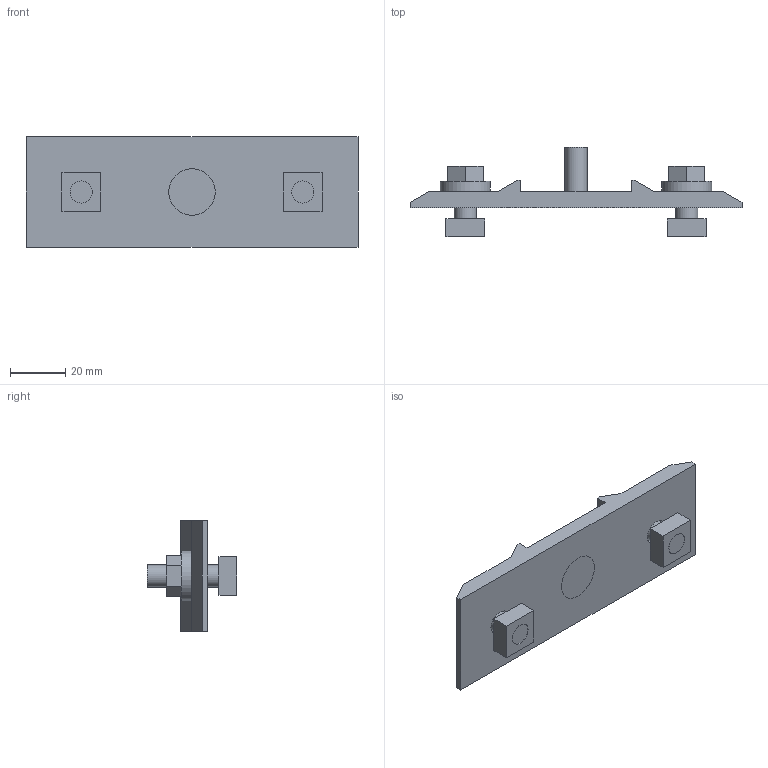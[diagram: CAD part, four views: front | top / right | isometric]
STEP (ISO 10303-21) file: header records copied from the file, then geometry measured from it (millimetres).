
FILE_DESCRIPTION((''),'2;1');
FILE_NAME('C:\Documents and Settings\古川典政\My Documents\Inventor\HP用\MasterData\BRACKET\M8\ABJF-4040-8.stp','2008-07-31T10:50:01',(''),(''),'Autodesk Inventor 2008','Autodesk Inventor 2008','');
FILE_SCHEMA(('CONFIG_CONTROL_DESIGN'));
Length unit declared in the file: millimetre
Products named in the file (7): ABJF-4040-8; ABJF-4040-81; ABJF-4040-82; ABJF-4040-83; ABJF-4040-84; ABJF-4040-85; ABJF-4040-86
Assembly tree (6 placements, depth 2):
  ABJF-4040-8
    ABJF-4040-81
    ABJF-4040-82
    ABJF-4040-83
    ABJF-4040-84
    ABJF-4040-85
    ABJF-4040-86
Bounding box: 120 x 32.5 x 40 mm (x, y, z)
Volume: 36085.3 mm3; surface area: 17498.3 mm2
Topology: 6 solids, 6 shells, 66 faces, 149 edges, 101 vertices
Faces by surface type: plane 52, cylinder 8, bspline 5, cone 1
Full cylindrical faces by diameter (mm): 8 x3, 8.4 x2, 9 x1, 18 x2
Entity records: 1979 total; most frequent: CARTESIAN_POINT 386, DIRECTION 302, ORIENTED_EDGE 256, EDGE_CURVE 128, VECTOR 102, LINE 102, AXIS2_PLACEMENT_3D 100, EDGE_LOOP 96
